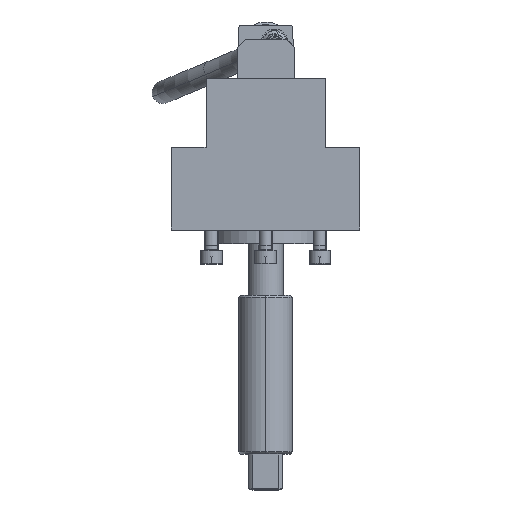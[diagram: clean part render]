
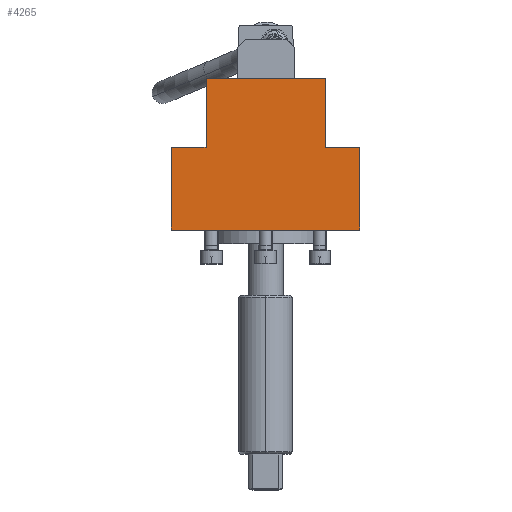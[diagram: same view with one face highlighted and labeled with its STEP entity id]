
A CAD part, top view. The second image highlights one B-rep face of the part: STEP entity #4265.
In plain terms, the highlighted planar face has unit normal (0, 0, 1).
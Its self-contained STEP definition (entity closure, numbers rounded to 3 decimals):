
#4241=AXIS2_PLACEMENT_3D('Plane Axis2P3D',#4238,#4239,#4240) ;
#3755=CARTESIAN_POINT('Vertex',(-69.5,-68.,630.1)) ;
#3758=CARTESIAN_POINT('Line Origine',(-69.5,-37.5,630.1)) ;
#3762=CARTESIAN_POINT('Vertex',(-69.5,-7.,630.1)) ;
#3800=CARTESIAN_POINT('Vertex',(44.,44.,630.1)) ;
#3803=CARTESIAN_POINT('Line Origine',(44.,18.5,630.1)) ;
#3807=CARTESIAN_POINT('Vertex',(44.,-7.,630.1)) ;
#3899=CARTESIAN_POINT('Vertex',(-44.,44.,630.1)) ;
#3902=CARTESIAN_POINT('Line Origine',(0.,44.,630.1)) ;
#4138=CARTESIAN_POINT('Line Origine',(-44.,18.5,630.1)) ;
#4142=CARTESIAN_POINT('Vertex',(-44.,-7.,630.1)) ;
#4164=CARTESIAN_POINT('Line Origine',(56.75,-7.,630.1)) ;
#4168=CARTESIAN_POINT('Vertex',(69.5,-7.,630.1)) ;
#4183=CARTESIAN_POINT('Line Origine',(-56.75,-7.,630.1)) ;
#4238=CARTESIAN_POINT('Axis2P3D Location',(44.,-44.,630.1)) ;
#4243=CARTESIAN_POINT('Line Origine',(0.,-68.,630.1)) ;
#4247=CARTESIAN_POINT('Vertex',(69.5,-68.,630.1)) ;
#4250=CARTESIAN_POINT('Line Origine',(69.5,-37.5,630.1)) ;
#3759=DIRECTION('Vector Direction',(0.,1.,0.)) ;
#3804=DIRECTION('Vector Direction',(0.,1.,0.)) ;
#3903=DIRECTION('Vector Direction',(-1.,0.,0.)) ;
#4139=DIRECTION('Vector Direction',(0.,-1.,0.)) ;
#4165=DIRECTION('Vector Direction',(1.,0.,0.)) ;
#4184=DIRECTION('Vector Direction',(1.,0.,0.)) ;
#4239=DIRECTION('Axis2P3D Direction',(0.,0.,1.)) ;
#4240=DIRECTION('Axis2P3D XDirection',(0.,1.,0.)) ;
#4244=DIRECTION('Vector Direction',(-1.,0.,0.)) ;
#4251=DIRECTION('Vector Direction',(0.,-1.,0.)) ;
#3760=VECTOR('Line Direction',#3759,1.) ;
#3805=VECTOR('Line Direction',#3804,1.) ;
#3904=VECTOR('Line Direction',#3903,1.) ;
#4140=VECTOR('Line Direction',#4139,1.) ;
#4166=VECTOR('Line Direction',#4165,1.) ;
#4185=VECTOR('Line Direction',#4184,1.) ;
#4245=VECTOR('Line Direction',#4244,1.) ;
#4252=VECTOR('Line Direction',#4251,1.) ;
#4256=ORIENTED_EDGE('',*,*,#4187,.T.) ;
#4257=ORIENTED_EDGE('',*,*,#3764,.T.) ;
#4258=ORIENTED_EDGE('',*,*,#4249,.T.) ;
#4259=ORIENTED_EDGE('',*,*,#4254,.T.) ;
#4260=ORIENTED_EDGE('',*,*,#4170,.T.) ;
#4261=ORIENTED_EDGE('',*,*,#3809,.T.) ;
#4262=ORIENTED_EDGE('',*,*,#3906,.T.) ;
#4263=ORIENTED_EDGE('',*,*,#4144,.T.) ;
#4265=ADVANCED_FACE('AW-350.1\\AW3325.1\\Hauptk\X2\00F6\X0\rper',(#4264),#4242,.T.) ;
#3764=EDGE_CURVE('',#3763,#3756,#3761,.F.) ;
#3809=EDGE_CURVE('',#3808,#3801,#3806,.T.) ;
#3906=EDGE_CURVE('',#3801,#3900,#3905,.T.) ;
#4144=EDGE_CURVE('',#3900,#4143,#4141,.T.) ;
#4170=EDGE_CURVE('',#4169,#3808,#4167,.F.) ;
#4187=EDGE_CURVE('',#4143,#3763,#4186,.F.) ;
#4249=EDGE_CURVE('',#3756,#4248,#4246,.F.) ;
#4254=EDGE_CURVE('',#4248,#4169,#4253,.F.) ;
#4255=EDGE_LOOP('',(#4256,#4257,#4258,#4259,#4260,#4261,#4262,#4263)) ;
#4264=FACE_OUTER_BOUND('',#4255,.T.) ;
#3761=LINE('Line',#3758,#3760) ;
#3806=LINE('Line',#3803,#3805) ;
#3905=LINE('Line',#3902,#3904) ;
#4141=LINE('Line',#4138,#4140) ;
#4167=LINE('Line',#4164,#4166) ;
#4186=LINE('Line',#4183,#4185) ;
#4246=LINE('Line',#4243,#4245) ;
#4253=LINE('Line',#4250,#4252) ;
#4242=PLANE('Plane',#4241) ;
#3756=VERTEX_POINT('',#3755) ;
#3763=VERTEX_POINT('',#3762) ;
#3801=VERTEX_POINT('',#3800) ;
#3808=VERTEX_POINT('',#3807) ;
#3900=VERTEX_POINT('',#3899) ;
#4143=VERTEX_POINT('',#4142) ;
#4169=VERTEX_POINT('',#4168) ;
#4248=VERTEX_POINT('',#4247) ;
